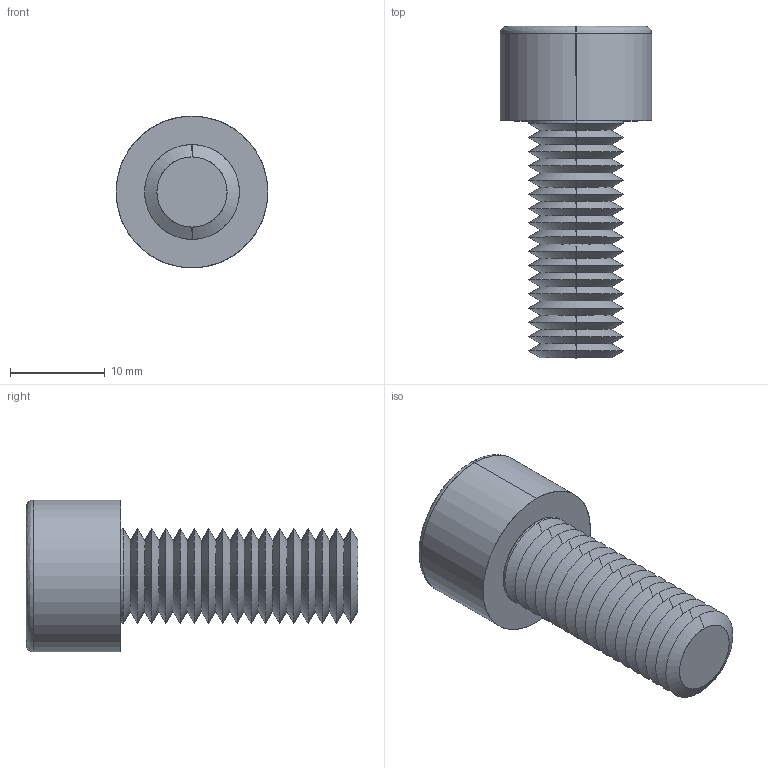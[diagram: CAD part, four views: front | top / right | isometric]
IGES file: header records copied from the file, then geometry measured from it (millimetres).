
Start section: SolidWorks IGES file using analytic representation for surfaces
Global section: file name: C:\Users\ianosborn\Desktop\N0007.91N_v2\N0007.91N_v2_20250519_IGES\91N.100.0250.igs; native system: SolidWorks 2019; preprocessor: SolidWorks 2019; author: IanOsborn; date: 250520.095510; units: millimetre
Bounding box: 16 x 35 x 16 mm (x, y, z)
Surface area: 2440.6 mm2 (no closed solid volume)
Topology: 0 solids, 0 shells, 96 faces, 605 edges, 603 vertices
Faces by surface type: revolution 79, bspline 17
